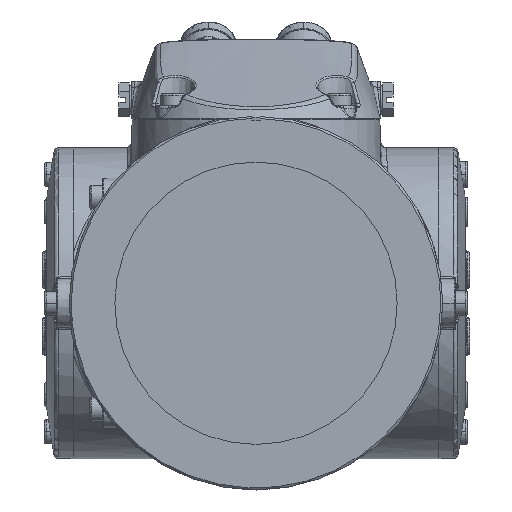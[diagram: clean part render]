
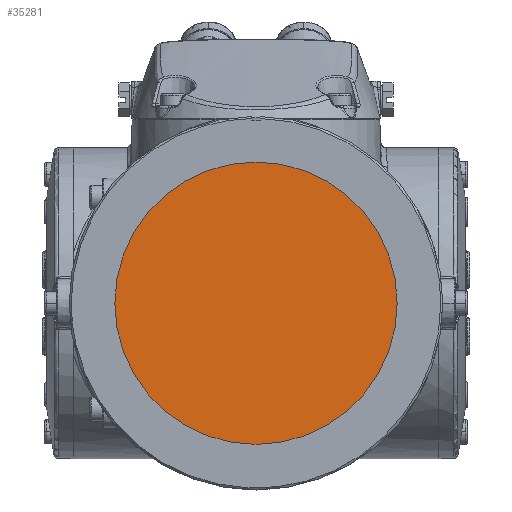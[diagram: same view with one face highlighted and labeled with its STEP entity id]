
A CAD part, left-side view. The second image highlights one B-rep face of the part: STEP entity #35281.
In plain terms, the highlighted planar face has unit normal (-1, 0, 0).
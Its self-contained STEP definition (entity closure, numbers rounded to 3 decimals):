
#1566 = CIRCLE ( 'NONE', #70633, 34. ) ;
#2956 = ORIENTED_EDGE ( 'NONE', *, *, #91664, .T. ) ;
#10018 = FACE_OUTER_BOUND ( 'NONE', #19734, .T. ) ;
#15872 = DIRECTION ( 'NONE',  ( 0., 0., 1. ) ) ;
#19734 = EDGE_LOOP ( 'NONE', ( #23100, #2956 ) ) ;
#23100 = ORIENTED_EDGE ( 'NONE', *, *, #65561, .T. ) ;
#24766 = CARTESIAN_POINT ( 'NONE',  ( 45.5, 0., 583. ) ) ;
#35281 = ADVANCED_FACE ( 'NONE', ( #10018 ), #67498, .T. ) ;
#35658 = DIRECTION ( 'NONE',  ( -1., 0., 0. ) ) ;
#37230 = CARTESIAN_POINT ( 'NONE',  ( 45.5, 0., 651. ) ) ;
#37603 = VERTEX_POINT ( 'NONE', #37230 ) ;
#37867 = CARTESIAN_POINT ( 'NONE',  ( 45.5, 0., 617. ) ) ;
#40885 = AXIS2_PLACEMENT_3D ( 'NONE', #91908, #35658, #15872 ) ;
#47745 = DIRECTION ( 'NONE',  ( 0., 0., 1. ) ) ;
#49888 = CARTESIAN_POINT ( 'NONE',  ( 45.5, 0., 617. ) ) ;
#51112 = DIRECTION ( 'NONE',  ( 0., 0., 1. ) ) ;
#65561 = EDGE_CURVE ( 'NONE', #94217, #37603, #1566, .T. ) ;
#67498 = PLANE ( 'NONE',  #83461 ) ;
#70633 = AXIS2_PLACEMENT_3D ( 'NONE', #49888, #116643, #51112 ) ;
#83461 = AXIS2_PLACEMENT_3D ( 'NONE', #37867, #84797, #47745 ) ;
#84797 = DIRECTION ( 'NONE',  ( -1., 0., 0. ) ) ;
#91664 = EDGE_CURVE ( 'NONE', #37603, #94217, #94149, .T. ) ;
#91908 = CARTESIAN_POINT ( 'NONE',  ( 45.5, 0., 617. ) ) ;
#94149 = CIRCLE ( 'NONE', #40885, 34. ) ;
#94217 = VERTEX_POINT ( 'NONE', #24766 ) ;
#116643 = DIRECTION ( 'NONE',  ( -1., 0., 0. ) ) ;
